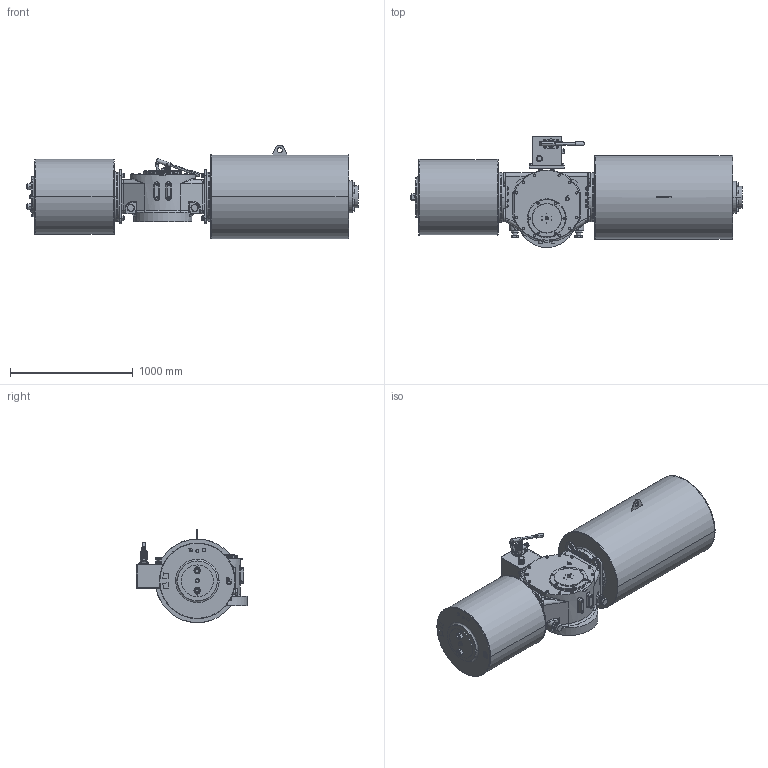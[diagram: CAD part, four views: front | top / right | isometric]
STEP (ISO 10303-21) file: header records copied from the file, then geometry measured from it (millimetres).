
FILE_DESCRIPTION (( 'STEP AP203' ), '1' );
FILE_NAME ('VTS6-600-SR-MH-FC.STEP', '2023-01-01T09:58:19', ( '' ), ( '' ), 'SwSTEP 2.0', 'SolidWorks 2020', '' );
FILE_SCHEMA (( 'CONFIG_CONTROL_DESIGN' ));
Length unit declared in the file: millimetre
Products named in the file (1): VTS6-600-SR-MH-FC
Bounding box: 2702 x 903.5 x 761 mm (x, y, z)
Volume: 737386065.3 mm3; surface area: 8822721.2 mm2
Topology: 52 solids, 62 shells, 3059 faces, 7659 edges, 4882 vertices
Faces by surface type: plane 1230, cylinder 1063, cone 673, bspline 93
Entity records: 106284 total; most frequent: CARTESIAN_POINT 33301, DIRECTION 15414, ORIENTED_EDGE 15174, EDGE_CURVE 7587, AXIS2_PLACEMENT_3D 6121, VERTEX_POINT 4882, EDGE_LOOP 3489, LINE 3172
